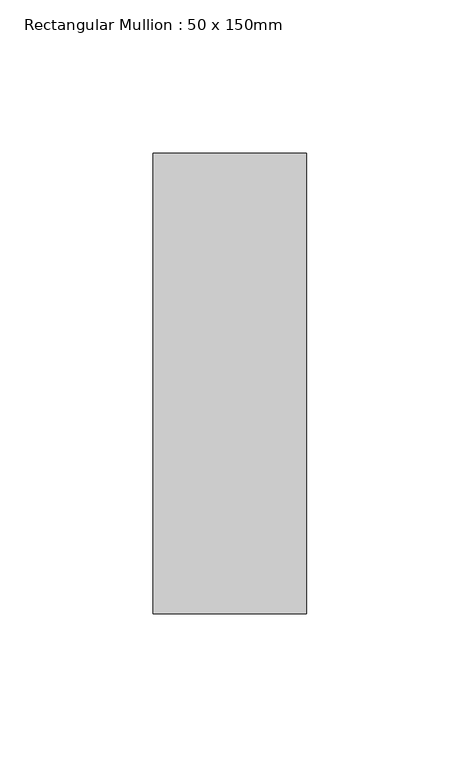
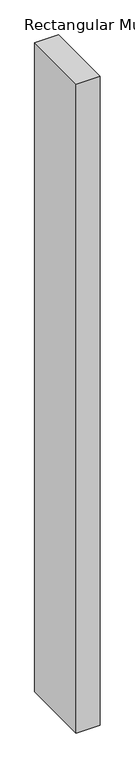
"""IFC4 building model written with IfcOpenShell, lengths in millimetres: member geometry, Rectangular Mullion : 50 x 150mm."""

from ifc_helpers import new_model, si_unit, frame, origin, place, context, project, spatial, polyline, outline, extrude, source, transform, mapped, element, save


def rectangular_mullion_50_x_150mm_0d2ae8be(model_context):
    return source(origin(), model_context, "Body", "SweptSolid", [
        extrude(outline(polyline([(0.0, 75.0), (0.0, -75.0), (-50.0, -75.0), (-50.0, 75.0), (0.0, 75.0)])), frame((0.0, 0.0, -1429.8186279), z_axis=(0.0, 0.0, 1.0), x_axis=(1.0, 0.0, 0.0)), (0.0, 0.0, 1.0), 1429.8186279),
    ])


if __name__ == "__main__":
    model = new_model("IFC4")
    model_context = context("Model", 3, world=origin())
    ifc_project = project(units=[si_unit("LENGTHUNIT", "METRE", prefix="MILLI")], contexts=[model_context])
    site = spatial("IfcSite", under=ifc_project)
    building = spatial("IfcBuilding", under=site)
    placement = place(None, origin())
    rectangular_mullion_50_x_150mm_shape = rectangular_mullion_50_x_150mm_0d2ae8be(model_context)
    element("IfcMember", 1, ObjectType="Rectangular Mullion : 50 x 150mm", at=placement, inside=building, context=model_context, shape_type="MappedRepresentation", body=[
        mapped(rectangular_mullion_50_x_150mm_shape, transform((0.0, 0.0, 0.0), x_axis=(1.0, 0.0, 0.0), y_axis=(0.0, 1.0, 0.0), z_axis=(0.0, 0.0, 1.0))),
    ])
    save(model, "model.ifc")
